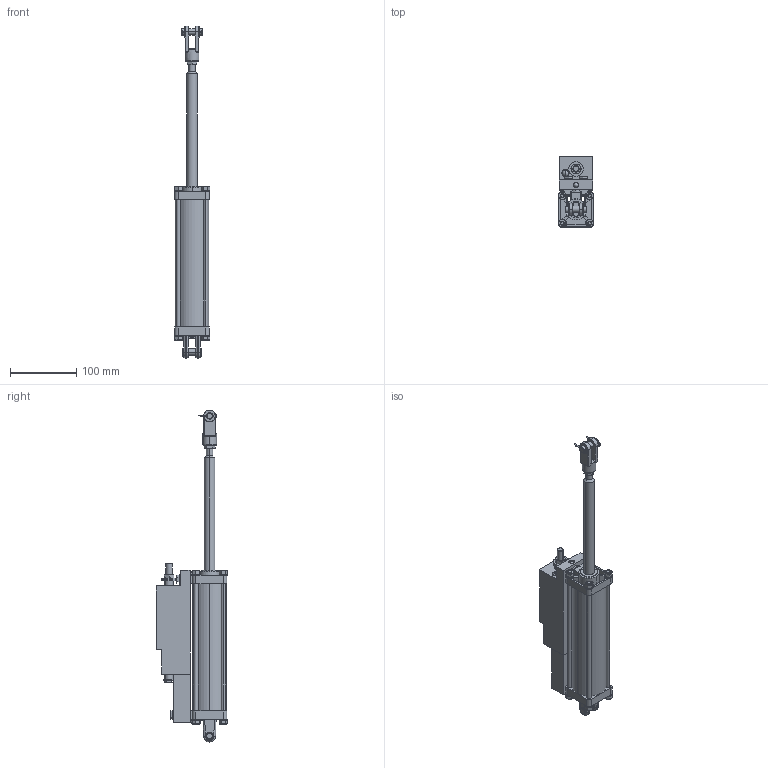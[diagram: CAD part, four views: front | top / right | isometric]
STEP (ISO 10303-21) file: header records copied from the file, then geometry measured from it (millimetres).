
FILE_DESCRIPTION (( 'STEP AP214' ), '1' );
FILE_NAME ('4605-6S_revC.STEP', '2019-04-11T17:15:55', ( '' ), ( '' ), 'SwSTEP 2.0', 'SolidWorks 2017', '' );
FILE_SCHEMA (( 'AUTOMOTIVE_DESIGN' ));
Length unit declared in the file: inch
Products named in the file (1): 4605-6S_revC
Bounding box: 54.11 x 107.27 x 501.12 mm (x, y, z)
Surface area: 151572.9 mm2 (no closed solid volume)
Topology: 0 solids, 78 shells, 853 faces, 2411 edges, 1603 vertices
Faces by surface type: plane 332, cylinder 279, cone 173, bspline 34, torus 21, sphere 14
Entity records: 41500 total; most frequent: CARTESIAN_POINT 8907, DIRECTION 4575, ORIENTED_EDGE 4070, EDGE_CURVE 2401, AXIS2_PLACEMENT_3D 1789, VERTEX_POINT 1603, LINE 997, VECTOR 997
